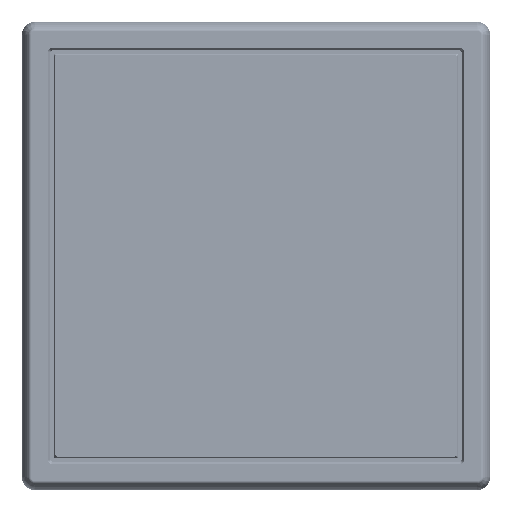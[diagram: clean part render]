
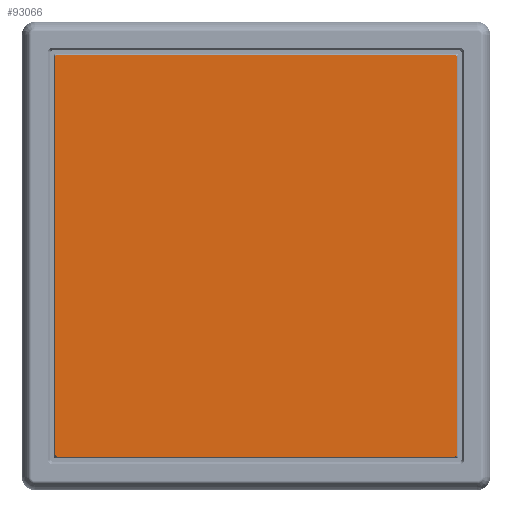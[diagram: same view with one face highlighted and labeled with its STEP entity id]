
A CAD part, top view. The second image highlights one B-rep face of the part: STEP entity #93066.
In plain terms, the highlighted planar face has unit normal (0, 0, 1).
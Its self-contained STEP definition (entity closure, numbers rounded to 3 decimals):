
#15949=FACE_OUTER_BOUND('',#21913,.T.);
#21913=EDGE_LOOP('',(#83312,#83313,#83314,#83315,#83316,#83317,#83318,#83319));
#28255=LINE('',#242402,#34588);
#28257=LINE('',#242409,#34590);
#28261=LINE('',#242418,#34594);
#28264=LINE('',#242426,#34597);
#34588=VECTOR('',#124509,125.979);
#34590=VECTOR('',#124517,125.979);
#34594=VECTOR('',#124527,125.979);
#34597=VECTOR('',#124536,125.979);
#36163=ELLIPSE('',#101728,0.645,0.5);
#36164=ELLIPSE('',#101731,0.645,0.5);
#36165=ELLIPSE('',#101734,0.645,0.5);
#36166=ELLIPSE('',#101737,0.645,0.5);
#43701=VERTEX_POINT('',#242398);
#43702=VERTEX_POINT('',#242400);
#43703=VERTEX_POINT('',#242404);
#43704=VERTEX_POINT('',#242408);
#43705=VERTEX_POINT('',#242412);
#43706=VERTEX_POINT('',#242416);
#43707=VERTEX_POINT('',#242420);
#43708=VERTEX_POINT('',#242424);
#57009=EDGE_CURVE('',#43701,#43702,#28255,.T.);
#57011=EDGE_CURVE('',#43703,#43701,#36163,.T.);
#57012=EDGE_CURVE('',#43704,#43703,#28257,.T.);
#57015=EDGE_CURVE('',#43705,#43704,#36164,.T.);
#57017=EDGE_CURVE('',#43706,#43705,#28261,.T.);
#57019=EDGE_CURVE('',#43707,#43706,#36165,.T.);
#57021=EDGE_CURVE('',#43708,#43707,#28264,.T.);
#57022=EDGE_CURVE('',#43702,#43708,#36166,.T.);
#83312=ORIENTED_EDGE('',*,*,#57011,.T.);
#83313=ORIENTED_EDGE('',*,*,#57009,.T.);
#83314=ORIENTED_EDGE('',*,*,#57022,.T.);
#83315=ORIENTED_EDGE('',*,*,#57021,.T.);
#83316=ORIENTED_EDGE('',*,*,#57019,.T.);
#83317=ORIENTED_EDGE('',*,*,#57017,.T.);
#83318=ORIENTED_EDGE('',*,*,#57015,.T.);
#83319=ORIENTED_EDGE('',*,*,#57012,.T.);
#87790=PLANE('',#101738);
#93066=ADVANCED_FACE('',(#15949),#87790,.T.);
#101728=AXIS2_PLACEMENT_3D('',#242406,#124513,#124514);
#101731=AXIS2_PLACEMENT_3D('',#242414,#124522,#124523);
#101734=AXIS2_PLACEMENT_3D('',#242422,#124531,#124532);
#101737=AXIS2_PLACEMENT_3D('',#242428,#124539,#124540);
#101738=AXIS2_PLACEMENT_3D('',#242429,#124541,#124542);
#124509=DIRECTION('',(0.,-1.,0.));
#124513=DIRECTION('center_axis',(0.,0.,1.));
#124514=DIRECTION('ref_axis',(-0.707,0.707,0.));
#124517=DIRECTION('',(-1.,0.,0.));
#124522=DIRECTION('center_axis',(0.,0.,1.));
#124523=DIRECTION('ref_axis',(0.707,0.707,0.));
#124527=DIRECTION('',(0.,1.,0.));
#124531=DIRECTION('center_axis',(0.,0.,1.));
#124532=DIRECTION('ref_axis',(0.707,-0.707,0.));
#124536=DIRECTION('',(1.,0.,0.));
#124539=DIRECTION('center_axis',(0.,0.,1.));
#124540=DIRECTION('ref_axis',(-0.707,-0.707,0.));
#124541=DIRECTION('center_axis',(0.,0.,1.));
#124542=DIRECTION('ref_axis',(1.,0.,0.));
#242398=CARTESIAN_POINT('',(-63.423,62.99,3.));
#242400=CARTESIAN_POINT('',(-63.423,-62.99,3.));
#242402=CARTESIAN_POINT('',(-63.423,62.99,3.));
#242404=CARTESIAN_POINT('',(-62.99,63.423,3.));
#242406=CARTESIAN_POINT('Origin',(-62.845,62.845,3.));
#242408=CARTESIAN_POINT('',(62.99,63.423,3.));
#242409=CARTESIAN_POINT('',(62.99,63.423,3.));
#242412=CARTESIAN_POINT('',(63.423,62.99,3.));
#242414=CARTESIAN_POINT('Origin',(62.845,62.845,3.));
#242416=CARTESIAN_POINT('',(63.423,-62.99,3.));
#242418=CARTESIAN_POINT('',(63.423,-62.99,3.));
#242420=CARTESIAN_POINT('',(62.99,-63.423,3.));
#242422=CARTESIAN_POINT('Origin',(62.845,-62.845,3.));
#242424=CARTESIAN_POINT('',(-62.99,-63.423,3.));
#242426=CARTESIAN_POINT('',(-62.99,-63.423,3.));
#242428=CARTESIAN_POINT('Origin',(-62.845,-62.845,3.));
#242429=CARTESIAN_POINT('Origin',(0.,0.,3.));
